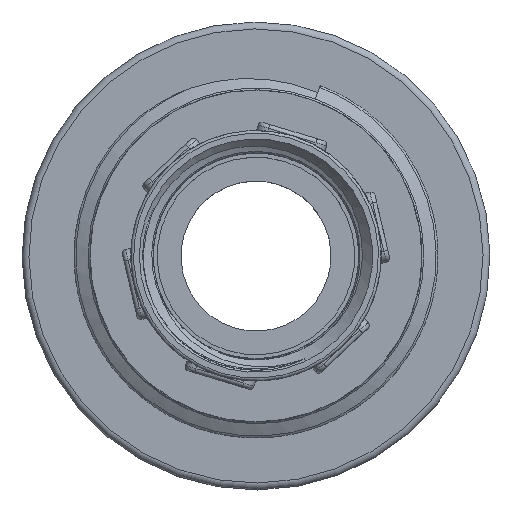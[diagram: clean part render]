
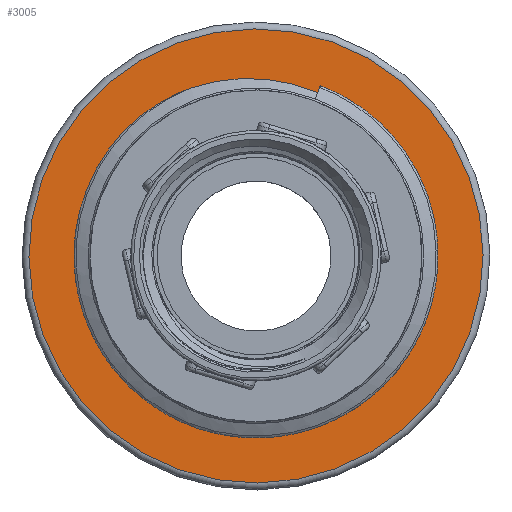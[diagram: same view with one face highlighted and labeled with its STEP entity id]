
A CAD part, top view. The second image highlights one B-rep face of the part: STEP entity #3005.
In plain terms, the highlighted planar face has unit normal (0, 0, 1).
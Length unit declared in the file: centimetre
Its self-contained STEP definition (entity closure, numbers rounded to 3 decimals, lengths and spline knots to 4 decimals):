
#132=FACE_BOUND('',#680,.T.);
#181=PLANE('',#3271);
#303=CIRCLE('',#3264,1.225);
#306=CIRCLE('',#3269,1.65);
#487=FACE_OUTER_BOUND('',#679,.T.);
#679=EDGE_LOOP('',(#2342));
#680=EDGE_LOOP('',(#2343,#2344,#2345,#2346));
#1156=B_SPLINE_CURVE_WITH_KNOTS('',3,(#4862,#4863,#4864,#4865,#4866,#4867,
#4868,#4869,#4870,#4871,#4872,#4873,#4874),.UNSPECIFIED.,.F.,.F.,(4,3,3,
3,4),(0.,0.5568,1.1935,1.816,1.9218),
 .UNSPECIFIED.);
#1159=B_SPLINE_CURVE_WITH_KNOTS('',3,(#5075,#5076,#5077,#5078,#5079,#5080,
#5081,#5082,#5083,#5084,#5085,#5086),.UNSPECIFIED.,.F.,.F.,(4,2,2,2,2,4),
(0.,0.3363,0.6479,0.9496,1.1525,
1.3239),.UNSPECIFIED.);
#1165=B_SPLINE_CURVE_WITH_KNOTS('',3,(#6188,#6189,#6190,#6191,#6192,#6193,
#6194,#6195,#6196,#6197,#6198,#6199,#6200),.UNSPECIFIED.,.F.,.F.,(4,3,3,
3,4),(0.1276,0.7173,1.3502,1.9953,
2.0465),.UNSPECIFIED.);
#1202=VERTEX_POINT('',#4642);
#1204=VERTEX_POINT('',#4861);
#1208=VERTEX_POINT('',#5074);
#1219=VERTEX_POINT('',#6101);
#1349=VERTEX_POINT('',#10211);
#1471=EDGE_CURVE('',#1204,#1202,#1156,.T.);
#1476=EDGE_CURVE('',#1208,#1204,#1159,.T.);
#1491=EDGE_CURVE('',#1219,#1208,#1165,.T.);
#1697=EDGE_CURVE('',#1202,#1219,#303,.T.);
#1700=EDGE_CURVE('',#1349,#1349,#306,.T.);
#2342=ORIENTED_EDGE('',*,*,#1700,.F.);
#2343=ORIENTED_EDGE('',*,*,#1471,.T.);
#2344=ORIENTED_EDGE('',*,*,#1697,.T.);
#2345=ORIENTED_EDGE('',*,*,#1491,.T.);
#2346=ORIENTED_EDGE('',*,*,#1476,.T.);
#3005=ADVANCED_FACE('',(#487,#132),#181,.T.);
#3264=AXIS2_PLACEMENT_3D('',#10204,#3877,#3878);
#3269=AXIS2_PLACEMENT_3D('',#10212,#3887,#3888);
#3271=AXIS2_PLACEMENT_3D('',#10215,#3891,#3892);
#3877=DIRECTION('center_axis',(0.,0.,
-1.));
#3878=DIRECTION('ref_axis',(0.87,-0.493,0.));
#3887=DIRECTION('center_axis',(0.,0.,
-1.));
#3888=DIRECTION('ref_axis',(0.87,-0.493,0.));
#3891=DIRECTION('center_axis',(0.,0.,
1.));
#3892=DIRECTION('ref_axis',(-0.493,-0.87,0.));
#4642=CARTESIAN_POINT('',(1.1144,0.5088,1.19));
#4861=CARTESIAN_POINT('',(-0.4707,1.2212,1.19));
#4862=CARTESIAN_POINT('Ctrl Pts',(-0.4708,1.2212,1.19));
#4863=CARTESIAN_POINT('Ctrl Pts',(-0.2949,1.2804,1.19));
#4864=CARTESIAN_POINT('Ctrl Pts',(-0.1075,1.3019,1.19));
#4865=CARTESIAN_POINT('Ctrl Pts',(0.0766,1.2829,1.19));
#4866=CARTESIAN_POINT('Ctrl Pts',(0.2872,1.2611,1.19));
#4867=CARTESIAN_POINT('Ctrl Pts',(0.4921,1.1862,1.19));
#4868=CARTESIAN_POINT('Ctrl Pts',(0.666,1.0667,1.19));
#4869=CARTESIAN_POINT('Ctrl Pts',(0.836,0.9498,1.19));
#4870=CARTESIAN_POINT('Ctrl Pts',(0.9772,0.7896,1.19));
#4871=CARTESIAN_POINT('Ctrl Pts',(1.0708,0.6049,1.19));
#4872=CARTESIAN_POINT('Ctrl Pts',(1.0867,0.5735,1.19));
#4873=CARTESIAN_POINT('Ctrl Pts',(1.1013,0.5415,1.19));
#4874=CARTESIAN_POINT('Ctrl Pts',(1.1144,0.5088,1.19));
#5074=CARTESIAN_POINT('',(-1.2406,-0.4169,1.19));
#5075=CARTESIAN_POINT('Ctrl Pts',(-1.2406,-0.4169,1.19));
#5076=CARTESIAN_POINT('Ctrl Pts',(-1.2808,-0.3122,
1.19));
#5077=CARTESIAN_POINT('Ctrl Pts',(-1.3195,-0.1609,
1.19));
#5078=CARTESIAN_POINT('Ctrl Pts',(-1.318,0.1911,1.19));
#5079=CARTESIAN_POINT('Ctrl Pts',(-1.2836,0.3588,1.19));
#5080=CARTESIAN_POINT('Ctrl Pts',(-1.154,0.6661,1.19));
#5081=CARTESIAN_POINT('Ctrl Pts',(-1.0619,0.8038,1.19));
#5082=CARTESIAN_POINT('Ctrl Pts',(-0.869,0.9987,
1.19));
#5083=CARTESIAN_POINT('Ctrl Pts',(-0.7815,1.0668,1.19));
#5084=CARTESIAN_POINT('Ctrl Pts',(-0.6061,1.1692,1.19));
#5085=CARTESIAN_POINT('Ctrl Pts',(-0.5321,1.2005,1.19));
#5086=CARTESIAN_POINT('Ctrl Pts',(-0.4707,1.2212,1.19));
#6101=CARTESIAN_POINT('',(0.3194,-1.1826,1.19));
#6188=CARTESIAN_POINT('Ctrl Pts',(0.3195,-1.1827,1.19));
#6189=CARTESIAN_POINT('Ctrl Pts',(0.1329,-1.2422,1.19));
#6190=CARTESIAN_POINT('Ctrl Pts',(-0.0685,-1.2562,
1.19));
#6191=CARTESIAN_POINT('Ctrl Pts',(-0.2615,-1.2238,
1.19));
#6192=CARTESIAN_POINT('Ctrl Pts',(-0.4687,-1.189,1.19));
#6193=CARTESIAN_POINT('Ctrl Pts',(-0.6673,-1.1008,1.19));
#6194=CARTESIAN_POINT('Ctrl Pts',(-0.8328,-0.9708,
1.19));
#6195=CARTESIAN_POINT('Ctrl Pts',(-1.0014,-0.8384,
1.19));
#6196=CARTESIAN_POINT('Ctrl Pts',(-1.1365,-0.662,
1.19));
#6197=CARTESIAN_POINT('Ctrl Pts',(-1.2214,-0.4644,
1.19));
#6198=CARTESIAN_POINT('Ctrl Pts',(-1.2281,-0.4487,
1.19));
#6199=CARTESIAN_POINT('Ctrl Pts',(-1.2346,-0.4329,
1.19));
#6200=CARTESIAN_POINT('Ctrl Pts',(-1.2407,-0.4169,
1.19));
#10204=CARTESIAN_POINT('Origin',(0.,0.,
1.19));
#10211=CARTESIAN_POINT('',(-1.4351,0.8142,1.19));
#10212=CARTESIAN_POINT('Origin',(0.,0.,
1.19));
#10215=CARTESIAN_POINT('Origin',(-1.4786,0.8389,1.19));
